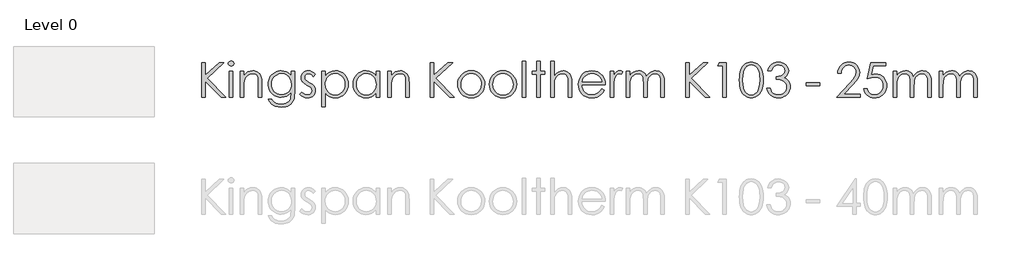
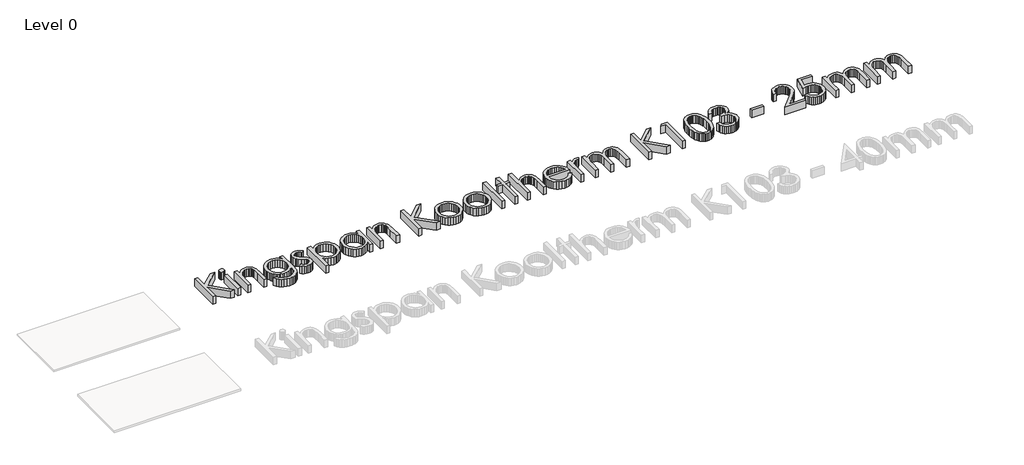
# One storey, part 13 of 13: 1 proxy.
"""IFC4 building model written with IfcOpenShell, lengths in millimetres."""

from ifc_helpers import new_model, si_unit, origin, origin_with_axes, place, context, project, spatial, polyline, outline, extrude, element, save

model = new_model("IFC4")

# Units and contexts
model_context = context("Model", 3, world=origin())
ifc_project = project(units=[si_unit("LENGTHUNIT", "METRE", prefix="MILLI")], contexts=[model_context])

# Site, building, storey
site = spatial("IfcSite", under=ifc_project)
building = spatial("IfcBuilding", under=site)
storey = spatial("IfcBuildingStorey", under=building, Name="Level 0", Elevation=0.0)

# Proxy
placement = place(None, origin())
element("IfcBuildingElementProxy", 1, Name="600mm KI_CenturyGothic", ObjectType="600mm KI_CenturyGothic", at=placement, inside=storey, context=model_context, shape_type="SweptSolid", body=[
    extrude(outline(polyline([(-3852.2663848, 5900.8965983), (-3792.944575, 5900.8965983), (-3792.944575, 5681.683973), (-3555.1938841, 5900.8965983), (-3471.6181051, 5900.8965983), (-3760.9664119, 5633.9484541), (-3441.9572002, 5307.6785001), (-3520.8984627, 5307.6785001), (-3792.944575, 5585.9039675), (-3792.944575, 5307.6785001), (-3852.2663848, 5307.6785001), (-3852.2663848, 5900.8965983)])), origin_with_axes(), (0.0, 0.0, 1.0), 150.0),
    extrude(outline(polyline([(-3348.1854852, 5930.5575033), (-3329.145347, 5927.2747208), (-3313.1176445, 5917.4263735), (-3302.226531, 5902.9821307), (-3298.5961598, 5885.911662), (-3302.226531, 5869.0729191), (-3313.1176445, 5854.7059183), (-3329.145347, 5844.857571), (-3348.1854852, 5841.5747885), (-3366.9938975, 5844.857571), (-3382.9443581, 5854.7059183), (-3393.8354717, 5869.0729191), (-3397.4658428, 5885.911662), (-3393.8354717, 5902.9821307), (-3382.9443581, 5917.4263735), (-3366.9938975, 5927.2747208), (-3348.1854852, 5930.5575033)])), origin_with_axes(), (0.0, 0.0, 1.0), 150.0),
    extrude(outline(polyline([(-3377.6919062, 5752.5920738), (-3318.3700964, 5752.5920738), (-3318.3700964, 5307.6785001), (-3377.6919062, 5307.6785001), (-3377.6919062, 5752.5920738)])), origin_with_axes(), (0.0, 0.0, 1.0), 150.0),
    extrude(outline(polyline([(-3189.8395084, 5752.5920738), (-3130.5176986, 5752.5920738), (-3130.5176986, 5673.4963274), (-3096.9946967, 5713.0055796), (-3060.0730495, 5740.696815), (-3019.7141359, 5757.0334853), (-2975.879335, 5762.4790421), (-2953.4357238, 5760.9004099), (-2932.2955704, 5756.1645135), (-2912.4588747, 5748.2713528), (-2893.9256368, 5737.2209277), (-2877.212412, 5723.4960006), (-2862.835756, 5707.5793333), (-2841.0921499, 5669.1707787), (-2833.6238199, 5644.7912914), (-2828.2892984, 5614.4448643), (-2824.0216812, 5535.8511905), (-2824.0216812, 5307.6785001), (-2883.343491, 5307.6785001), (-2883.343491, 5520.8662542), (-2883.343491, 5623.907002), (-2884.7290183, 5644.7043943), (-2889.8125035, 5662.7596977), (-2898.2849788, 5678.0729123), (-2910.1464442, 5690.644038), (-2924.7403432, 5700.4441091), (-2941.4101193, 5707.4441599), (-2980.977303, 5713.0442006), (-3005.3471351, 5710.8862539), (-3028.4038541, 5704.4124138), (-3050.1474602, 5693.6226803), (-3070.5779533, 5678.5170534), (-3088.6622225, 5660.2348518), (-3103.3671568, 5639.915394), (-3114.6927562, 5617.55868), (-3122.6390208, 5593.1647099), (-3128.5480292, 5546.0857475), (-3130.5176986, 5471.5858965), (-3130.5176986, 5307.6785001), (-3189.8395084, 5307.6785001), (-3189.8395084, 5752.5920738)])), origin_with_axes(), (0.0, 0.0, 1.0), 150.0),
    extrude(outline(polyline([(-2319.7862977, 5752.5920738), (-2260.4644879, 5752.5920738), (-2260.4644879, 5401.604699), (-2264.5196897, 5321.3503235), (-2269.588692, 5290.5500999), (-2276.6852953, 5265.9678526), (-2289.9371156, 5237.3545415), (-2307.2924139, 5212.2267729), (-2328.7511904, 5190.5845469), (-2354.3134448, 5172.4278634), (-2383.3226209, 5158.0656902), (-2415.122162, 5147.8069951), (-2449.7120682, 5141.651778), (-2487.0923395, 5139.6000389), (-2541.0458345, 5143.6166198), (-2589.206184, 5155.6663624), (-2630.260275, 5174.4940853), (-2662.8949946, 5198.8446068), (-2690.2000204, 5232.1938144), (-2715.2650299, 5278.0175952), (-2655.94322, 5278.0175952), (-2642.4355358, 5256.848476), (-2627.0933555, 5238.6048954), (-2609.9166791, 5223.2868532), (-2590.9055067, 5210.8943494), (-2569.7894914, 5201.3308318), (-2546.2982864, 5194.4997477), (-2492.1903075, 5189.0348805), (-2438.5071593, 5194.3645743), (-2415.083541, 5201.0266916), (-2393.93856, 5210.3536559), (-2359.6624492, 5234.3952097), (-2336.8567664, 5263.8823202), (-2329.3884364, 5282.5217658), (-2324.0539149, 5306.2302137), (-2319.7862977, 5368.8541165), (-2319.7862977, 5391.5632468), (-2354.757586, 5355.7809182), (-2396.6420279, 5329.3834852), (-2443.392712, 5313.1047464), (-2492.9627269, 5307.6785001), (-2522.4063889, 5309.5757553), (-2550.9521133, 5315.2675207), (-2578.5999001, 5324.7537964), (-2605.3497494, 5338.0345825), (-2630.1540674, 5354.5257366), (-2651.9652601, 5373.6431168), (-2670.7833277, 5395.3867228), (-2686.6082702, 5419.7565549), (-2699.1456025, 5446.0719183), (-2708.1008399, 5473.6521184), (-2713.4739824, 5502.4971553), (-2715.2650299, 5532.607029), (-2713.3967404, 5562.8955247), (-2707.7918722, 5592.1219437), (-2698.4504251, 5620.286286), (-2685.3723991, 5647.3885517), (-2668.9971079, 5672.5742517), (-2649.7638648, 5694.9888971), (-2627.67267, 5714.632488), (-2602.7235235, 5731.5050242), (-2575.9833294, 5745.056157), (-2548.5189922, 5754.7355376), (-2520.3305117, 5760.543166), (-2491.4178881, 5762.4790421), (-2444.5320306, 5757.5355579), (-2400.8903346, 5742.7051055), (-2359.6045177, 5716.1338782), (-2319.7862977, 5675.9680694), (-2319.7862977, 5752.5920738)]), holes=[polyline([(-2484.1571458, 5713.0442006), (-2529.0154023, 5707.0193293), (-2570.5908765, 5688.9447153), (-2606.2187212, 5660.2300242), (-2633.2340897, 5622.2849212), (-2650.2659375, 5578.0059792), (-2655.94322, 5530.2897708), (-2653.0080263, 5494.3770964), (-2644.2024452, 5461.7182387), (-2629.5264766, 5432.3131977), (-2608.9801206, 5406.1619734), (-2583.7606272, 5384.703197), (-2555.0652466, 5369.3754996), (-2522.8939786, 5360.1788811), (-2487.2468234, 5357.1133416), (-2451.3244937, 5360.154743), (-2419.1001219, 5369.2789472), (-2390.573708, 5384.4859541), (-2365.7452519, 5405.7757637), (-2345.6382095, 5432.0187128), (-2331.2760363, 5462.0851379), (-2322.6587323, 5495.975039), (-2319.7862977, 5533.6884162), (-2325.0773706, 5582.3894593), (-2340.9505892, 5625.6063246), (-2366.4983608, 5661.8327944), (-2400.8130926, 5689.5626508), (-2440.9982119, 5707.1738131), (-2484.1571458, 5713.0442006)])]), origin_with_axes(), (0.0, 0.0, 1.0), 150.0),
    extrude(outline(polyline([(-1904.5336289, 5701.3034257), (-1940.9918246, 5663.609359), (-1962.9575012, 5685.2371022), (-1984.6721416, 5700.6854902), (-2006.1357456, 5709.954523), (-2027.3483133, 5713.0442006), (-2052.181597, 5708.3710632), (-2073.2300256, 5694.3516511), (-2087.5970264, 5674.1142629), (-2092.3860267, 5650.787197), (-2088.4466878, 5629.2366958), (-2076.628671, 5608.7675817), (-2052.0657341, 5586.599145), (-2010.2006027, 5560.877579), (-1958.3326401, 5528.0111336), (-1939.8428507, 5512.1861912), (-1926.315856, 5496.7667689), (-1909.9791857, 5464.0934284), (-1904.5336289, 5427.5579908), (-1906.9474396, 5401.4115941), (-1914.1888714, 5377.3507299), (-1926.2579245, 5355.375398), (-1943.1545989, 5335.4855985), (-1963.6719892, 5318.9944443), (-1986.6031901, 5307.2150485), (-2011.9482016, 5300.147411), (-2039.7070237, 5297.7915318), (-2077.4397114, 5301.6729393), (-2113.3958344, 5313.3171617), (-2145.4512394, 5331.7972958), (-2171.4817731, 5356.1864383), (-2135.7959969, 5396.6612148), (-2114.0041146, 5375.0334717), (-2091.5749863, 5359.5850837), (-2068.5086121, 5350.3160509), (-2044.8049918, 5347.2263733), (-2013.637869, 5352.8650349), (-1987.4914724, 5369.7810198), (-1969.7644472, 5394.3439566), (-1963.8554388, 5422.9234744), (-1967.7561567, 5446.7139919), (-1979.4583106, 5467.7237995), (-2005.0253927, 5489.4287846), (-2050.2119275, 5516.2317378), (-2099.762632, 5546.8967879), (-2117.441381, 5562.0555186), (-2130.3890611, 5577.0983864), (-2146.3781427, 5609.2310334), (-2151.7078365, 5645.689229), (-2149.5305794, 5669.7356104), (-2142.9988078, 5691.6674937), (-2132.1125219, 5711.4848789), (-2116.8717217, 5729.187766), (-2098.309518, 5743.7526993), (-2077.4590218, 5754.1562231), (-2054.3202332, 5760.3983373), (-2028.8931521, 5762.4790421), (-1997.9481, 5758.6555661), (-1966.9064954, 5747.185138), (-1935.7683384, 5728.0677579), (-1904.5336289, 5701.3034257)])), origin_with_axes(), (0.0, 0.0, 1.0), 150.0),
    extrude(outline(polyline([(-1795.7769776, 5752.5920738), (-1736.4551678, 5752.5920738), (-1736.4551678, 5671.4880369), (-1700.9238754, 5711.7310876), (-1660.4490989, 5740.0788795), (-1614.9922173, 5756.8790014), (-1564.5146096, 5762.4790421), (-1520.0618732, 5758.2403906), (-1478.9305402, 5745.5244363), (-1441.1206107, 5724.331179), (-1406.6320845, 5694.6606189), (-1377.9077381, 5659.0231189), (-1357.3903478, 5619.929042), (-1345.0799137, 5577.3783884), (-1340.9764356, 5531.371158), (-1345.0412927, 5484.4708176), (-1357.235864, 5441.2491246), (-1377.5601494, 5401.706079), (-1406.014149, 5365.8416808), (-1440.2130179, 5336.0697406), (-1477.7719111, 5314.8040691), (-1518.6908288, 5302.0446661), (-1562.9697708, 5297.7915318), (-1612.6170277, 5303.256399), (-1658.0545988, 5319.6510008), (-1699.3211052, 5346.8980951), (-1736.4551678, 5384.92044), (-1736.4551678, 5149.4870072), (-1795.7769776, 5149.4870072), (-1795.7769776, 5752.5920738)]), holes=[polyline([(-1568.5311905, 5713.0442006), (-1602.5852307, 5709.7469353), (-1633.8392507, 5699.8551393), (-1662.2932503, 5683.3688128), (-1687.9472295, 5660.2879556), (-1709.1694525, 5632.3022353), (-1724.3281832, 5601.1013192), (-1733.4234216, 5566.6852074), (-1736.4551678, 5529.0538998), (-1731.048232, 5480.1983728), (-1714.8274246, 5436.5180558), (-1688.5265441, 5399.6736505), (-1652.8793888, 5371.3258586), (-1611.4390881, 5353.2512446), (-1567.7587711, 5347.2263733), (-1525.0632888, 5353.2898656), (-1485.0326535, 5371.4803424), (-1450.2544701, 5400.5812433), (-1423.3163435, 5439.3760076), (-1406.05277, 5484.0411593), (-1400.2982454, 5530.7532225), (-1405.9948385, 5577.6970114), (-1423.0846177, 5622.1304373), (-1449.8103289, 5660.4810605), (-1484.414718, 5689.1764411), (-1524.7157001, 5707.0772607), (-1568.5311905, 5713.0442006)])]), origin_with_axes(), (0.0, 0.0, 1.0), 150.0),
    extrude(outline(polyline([(-807.0801472, 5752.5920738), (-807.0801472, 5307.6785001), (-866.401957, 5307.6785001), (-866.401957, 5383.5300851), (-903.4780882, 5345.6815345), (-944.8797679, 5318.9558233), (-990.4525125, 5303.0826047), (-1040.0418379, 5297.7915318), (-1084.3159523, 5302.0446661), (-1125.2203871, 5314.8040691), (-1162.7551422, 5336.0697406), (-1196.9202178, 5365.8416808), (-1225.340424, 5401.706079), (-1245.6405713, 5441.2491246), (-1257.8206597, 5484.4708176), (-1261.8806892, 5531.371158), (-1257.7820388, 5577.3783884), (-1245.4860875, 5619.929042), (-1224.9928353, 5659.0231189), (-1196.3022822, 5694.6606189), (-1161.8475494, 5724.331179), (-1124.061758, 5745.5244363), (-1082.9449079, 5758.2403906), (-1038.4969991, 5762.4790421), (-987.7490446, 5756.8790014), (-942.0990581, 5740.0788795), (-921.2051134, 5727.3918909), (-901.6242816, 5711.7310876), (-866.401957, 5671.4880369), (-866.401957, 5752.5920738), (-807.0801472, 5752.5920738)]), holes=[polyline([(-1034.3259343, 5713.0442006), (-1078.1414247, 5707.0772607), (-1118.4424068, 5689.1764411), (-1153.0467959, 5660.4810605), (-1179.7725071, 5622.1304373), (-1196.8622863, 5577.6970114), (-1202.5588794, 5530.7532225), (-1196.8043548, 5484.0411593), (-1179.5407813, 5439.3760076), (-1152.6026548, 5400.5812433), (-1117.8244713, 5371.4803424), (-1077.6779731, 5353.2898656), (-1034.6349021, 5347.2263733), (-991.0125165, 5353.2512446), (-949.7460102, 5371.3258586), (-914.2726493, 5399.6736505), (-888.0297002, 5436.5180558), (-871.8088928, 5480.1983728), (-866.401957, 5529.0538998), (-869.4337032, 5566.6852074), (-878.5289416, 5601.1013192), (-893.6876723, 5632.3022353), (-914.9098953, 5660.2879556), (-940.5638746, 5683.3688128), (-969.0178742, 5699.8551393), (-1000.2718941, 5709.7469353), (-1034.3259343, 5713.0442006)])]), origin_with_axes(), (0.0, 0.0, 1.0), 150.0),
    extrude(outline(polyline([(-668.662591, 5752.5920738), (-609.3407811, 5752.5920738), (-609.3407811, 5673.4963274), (-575.8177792, 5713.0055796), (-538.896132, 5740.696815), (-498.5372184, 5757.0334853), (-454.7024175, 5762.4790421), (-432.2588064, 5760.9004099), (-411.1186529, 5756.1645135), (-391.2819572, 5748.2713528), (-372.7487193, 5737.2209277), (-356.0354946, 5723.4960006), (-341.6588385, 5707.5793333), (-319.9152324, 5669.1707787), (-312.4469024, 5644.7912914), (-307.1123809, 5614.4448643), (-302.8447637, 5535.8511905), (-302.8447637, 5307.6785001), (-362.1665735, 5307.6785001), (-362.1665735, 5520.8662542), (-362.1665735, 5623.907002), (-363.5521008, 5644.7043943), (-368.635586, 5662.7596977), (-377.1080613, 5678.0729123), (-388.9695267, 5690.644038), (-403.5634257, 5700.4441091), (-420.2332018, 5707.4441599), (-459.8003855, 5713.0442006), (-484.1702176, 5710.8862539), (-507.2269366, 5704.4124138), (-528.9705427, 5693.6226803), (-549.4010358, 5678.5170534), (-567.485305, 5660.2348518), (-582.1902393, 5639.915394), (-593.5158387, 5617.55868), (-601.4621033, 5593.1647099), (-607.3711117, 5546.0857475), (-609.3407811, 5471.5858965), (-609.3407811, 5307.6785001), (-668.662591, 5307.6785001), (-668.662591, 5752.5920738)])), origin_with_axes(), (0.0, 0.0, 1.0), 150.0),
    extrude(outline(polyline([(62.9730635, 5900.8965983), (122.2948734, 5900.8965983), (122.2948734, 5681.683973), (360.0455643, 5900.8965983), (443.6213432, 5900.8965983), (154.2730365, 5633.9484541), (473.2822481, 5307.6785001), (394.3409856, 5307.6785001), (122.2948734, 5585.9039675), (122.2948734, 5307.6785001), (62.9730635, 5307.6785001), (62.9730635, 5900.8965983)])), origin_with_axes(), (0.0, 0.0, 1.0), 150.0),
    extrude(outline(polyline([(760.1588128, 5762.4790421), (809.4681362, 5757.8541809), (854.3553585, 5743.9795975), (894.8204798, 5720.8552917), (930.8635, 5688.4812637), (957.7630055, 5653.2492839), (976.9769381, 5614.908316), (988.5052976, 5573.45836), (992.3480841, 5528.8994159), (988.283227, 5484.0846079), (976.0886558, 5442.1760279), (955.7643703, 5403.1736759), (927.3103707, 5367.0775519), (892.4742558, 5336.7649181), (853.0036246, 5315.1130368), (808.8984769, 5302.1219081), (760.1588128, 5297.7915318), (711.2839754, 5302.1219081), (667.0822753, 5315.1130368), (627.5537126, 5336.7649181), (592.6982872, 5367.0775519), (564.2442876, 5403.1736759), (543.9200022, 5442.1760279), (531.7254309, 5484.0846079), (527.6605738, 5528.8994159), (531.5033603, 5573.2652551), (543.0317198, 5614.5993482), (562.2456524, 5652.9016951), (589.145158, 5688.1722959), (625.2074886, 5720.6814974), (665.7305413, 5743.9023555), (710.7143161, 5757.8348705), (760.1588128, 5762.4790421)]), holes=[polyline([(760.004329, 5713.0442006), (725.7282181, 5709.6696933), (693.9624704, 5699.5461716), (664.7070856, 5682.6736353), (637.962064, 5659.0520846), (615.6584538, 5630.6415336), (599.7273037, 5599.4019965), (590.1686137, 5565.3334734), (586.9823836, 5528.4359643), (592.7948396, 5480.7004454), (610.2322075, 5436.3635719), (637.5758543, 5398.5729529), (673.1071466, 5370.4761972), (714.6439998, 5353.0388293), (760.004329, 5347.2263733), (805.3646581, 5353.0388293), (846.9015113, 5370.4761972), (882.4328037, 5398.5729529), (909.7764504, 5436.3635719), (927.2138183, 5480.7004454), (933.0262743, 5528.4359643), (929.8255614, 5565.3334734), (920.2234227, 5599.4019965), (904.2198583, 5630.6415336), (881.8148681, 5659.0520846), (854.9974321, 5682.6736353), (825.7565303, 5699.5461716), (794.0921625, 5709.6696933), (760.004329, 5713.0442006)])]), origin_with_axes(), (0.0, 0.0, 1.0), 150.0),
    extrude(outline(polyline([(1303.9420695, 5762.4790421), (1353.2513929, 5757.8541809), (1398.1386152, 5743.9795975), (1438.6037365, 5720.8552917), (1474.6467567, 5688.4812637), (1501.5462622, 5653.2492839), (1520.7601948, 5614.908316), (1532.2885543, 5573.45836), (1536.1313408, 5528.8994159), (1532.0664837, 5484.0846079), (1519.8719125, 5442.1760279), (1499.547627, 5403.1736759), (1471.0936274, 5367.0775519), (1436.2575126, 5336.7649181), (1396.7868813, 5315.1130368), (1352.6817336, 5302.1219081), (1303.9420695, 5297.7915318), (1255.0672321, 5302.1219081), (1210.865532, 5315.1130368), (1171.3369693, 5336.7649181), (1136.4815439, 5367.0775519), (1108.0275443, 5403.1736759), (1087.7032589, 5442.1760279), (1075.5086876, 5484.0846079), (1071.4438305, 5528.8994159), (1075.286617, 5573.2652551), (1086.8149766, 5614.5993482), (1106.0289091, 5652.9016951), (1132.9284147, 5688.1722959), (1168.9907453, 5720.6814974), (1209.5137981, 5743.9023555), (1254.4975728, 5757.8348705), (1303.9420695, 5762.4790421)]), holes=[polyline([(1303.7875857, 5713.0442006), (1269.5114748, 5709.6696933), (1237.7457271, 5699.5461716), (1208.4903423, 5682.6736353), (1181.7453207, 5659.0520846), (1159.4417105, 5630.6415336), (1143.5105604, 5599.4019965), (1133.9518704, 5565.3334734), (1130.7656404, 5528.4359643), (1136.5780963, 5480.7004454), (1154.0154643, 5436.3635719), (1181.359111, 5398.5729529), (1216.8904033, 5370.4761972), (1258.4272565, 5353.0388293), (1303.7875857, 5347.2263733), (1349.1479149, 5353.0388293), (1390.684768, 5370.4761972), (1426.2160604, 5398.5729529), (1453.5597071, 5436.3635719), (1470.997075, 5480.7004454), (1476.809531, 5528.4359643), (1473.6088181, 5565.3334734), (1464.0066795, 5599.4019965), (1448.003115, 5630.6415336), (1425.5981249, 5659.0520846), (1398.7806889, 5682.6736353), (1369.539787, 5699.5461716), (1337.8754193, 5709.6696933), (1303.7875857, 5713.0442006)])]), origin_with_axes(), (0.0, 0.0, 1.0), 150.0),
    extrude(outline(polyline([(1635.0010238, 5920.6705349), (1694.3228337, 5920.6705349), (1694.3228337, 5307.6785001), (1635.0010238, 5307.6785001), (1635.0010238, 5920.6705349)])), origin_with_axes(), (0.0, 0.0, 1.0), 150.0),
    extrude(outline(polyline([(1882.1752314, 5920.6705349), (1941.4970413, 5920.6705349), (1941.4970413, 5752.5920738), (2020.5927877, 5752.5920738), (2020.5927877, 5703.1572323), (1941.4970413, 5703.1572323), (1941.4970413, 5307.6785001), (1882.1752314, 5307.6785001), (1882.1752314, 5703.1572323), (1803.079485, 5703.1572323), (1803.079485, 5752.5920738), (1882.1752314, 5752.5920738), (1882.1752314, 5920.6705349)])), origin_with_axes(), (0.0, 0.0, 1.0), 150.0),
    extrude(outline(polyline([(2119.4624707, 5920.6705349), (2178.7842806, 5920.6705349), (2178.7842806, 5671.9514886), (2212.5583188, 5711.6538456), (2249.6151394, 5739.9243956), (2289.9161216, 5756.8403805), (2333.4226442, 5762.4790421), (2355.8662553, 5760.9004099), (2377.0064088, 5756.1645135), (2396.8431044, 5748.2713528), (2415.3763424, 5737.2209277), (2432.0895671, 5723.5104834), (2446.4662232, 5707.6372648), (2468.2098293, 5669.4025045), (2475.6781593, 5645.0954316), (2481.0126808, 5614.7345216), (2485.280298, 5535.8511905), (2485.280298, 5307.6785001), (2425.9584882, 5307.6785001), (2425.9584882, 5520.8662542), (2424.5681332, 5585.247411), (2420.3970685, 5623.907002), (2406.879729, 5662.7596977), (2397.1665551, 5678.0729123), (2385.4837117, 5690.644038), (2371.840854, 5700.4441091), (2356.2476374, 5707.4441599), (2319.2101273, 5713.0442006), (2296.3416854, 5710.8862539), (2274.6994594, 5704.4124138), (2254.2834492, 5693.6226803), (2235.0936547, 5678.5170534), (2218.1052556, 5660.2348518), (2204.2934312, 5639.915394), (2193.6581816, 5617.55868), (2186.1995068, 5593.1647099), (2180.6380871, 5546.3174733), (2178.7842806, 5471.5858965), (2178.7842806, 5307.6785001), (2119.4624707, 5307.6785001), (2119.4624707, 5920.6705349)])), origin_with_axes(), (0.0, 0.0, 1.0), 150.0),
    extrude(outline(polyline([(2991.0605203, 5455.9830247), (3038.950523, 5430.8021523), (3013.3255094, 5388.9177104), (2984.0315038, 5355.9547125), (2950.952643, 5330.8703926), (2913.9730643, 5312.6219843), (2872.4941426, 5301.4991449), (2825.9172528, 5297.7915318), (2774.4258447, 5302.2232881), (2728.8627554, 5315.518557), (2689.227985, 5337.6773385), (2655.5215335, 5368.6996326), (2628.6220279, 5405.3026569), (2609.4080954, 5444.2036288), (2597.8797358, 5485.4025485), (2594.0369493, 5528.8994159), (2597.3197318, 5569.7797126), (2607.1680791, 5608.381372), (2623.5819913, 5644.7043943), (2646.5614684, 5678.7487793), (2682.7493173, 5715.3807692), (2724.5758277, 5741.5464764), (2772.0409998, 5757.2459007), (2825.1448334, 5762.4790421), (2879.7935059, 5757.1107273), (2928.6490329, 5741.0057828), (2971.7114143, 5714.1642087), (3008.9806503, 5676.5860049), (3030.4539096, 5644.414737), (3045.9022976, 5608.458614), (3055.3258143, 5568.7176359), (3058.7244596, 5525.1918028), (2653.3587591, 5525.1918028), (2657.095338, 5487.9370497), (2666.6057518, 5454.1871496), (2681.8900007, 5423.9421025), (2702.9480845, 5397.2019084), (2728.3124066, 5375.3376118), (2756.5153699, 5359.7202571), (2787.5569744, 5350.3498443), (2821.4372203, 5347.2263733), (2854.9602222, 5350.238809), (2887.5563208, 5359.2761159), (2917.2944677, 5373.3148385), (2942.2436143, 5391.331521), (2965.725164, 5417.4972281), (2991.0605203, 5455.9830247)]), holes=[polyline([(2999.4026498, 5574.6266443), (2984.9777175, 5617.1483322), (2965.1844704, 5650.1692615), (2939.0766947, 5675.6977226), (2905.7081767, 5695.742006), (2867.7630738, 5708.7186519), (2827.9255433, 5713.0442006), (2795.503239, 5710.3310774), (2765.4368139, 5702.191708), (2737.726268, 5688.6260923), (2712.3716012, 5669.6342304), (2695.8321708, 5651.820308), (2681.4362043, 5630.0477362), (2669.1837016, 5604.316515), (2659.0746627, 5574.6266443), (2999.4026498, 5574.6266443)])]), origin_with_axes(), (0.0, 0.0, 1.0), 150.0),
    extrude(outline(polyline([(3137.820206, 5752.5920738), (3197.1420159, 5752.5920738), (3197.1420159, 5688.1722959), (3222.6897875, 5721.2125357), (3249.589293, 5744.3271862), (3277.7632906, 5757.9410781), (3307.1345382, 5762.4790421), (3330.4616041, 5758.694187), (3355.3335087, 5747.3396219), (3325.8270877, 5705.3200066), (3297.2475699, 5713.0442006), (3270.8308265, 5707.0965712), (3245.3409863, 5689.2536831), (3223.2884125, 5658.8976007), (3207.183468, 5615.4103886), (3199.6523789, 5557.2858288), (3197.1420159, 5459.8451217), (3197.1420159, 5307.6785001), (3137.820206, 5307.6785001), (3137.820206, 5752.5920738)])), origin_with_axes(), (0.0, 0.0, 1.0), 150.0),
    extrude(outline(polyline([(3414.6553185, 5752.5920738), (3473.9771284, 5752.5920738), (3473.9771284, 5676.4315211), (3503.5607913, 5712.9283377), (3533.9168737, 5738.0705891), (3577.3268439, 5756.3769288), (3622.8995884, 5762.4790421), (3653.7384329, 5759.331433), (3682.9165757, 5749.8886059), (3708.6767627, 5735.2126373), (3729.2617397, 5716.365604), (3746.0425511, 5690.9336953), (3760.3902414, 5656.5031006), (3775.16759, 5680.9018983), (3791.6925376, 5702.191708), (3809.965084, 5720.3725296), (3829.9852293, 5735.4443631), (3851.2798666, 5747.2720352), (3873.375889, 5755.7203723), (3896.2732965, 5760.7893747), (3919.9720892, 5762.4790421), (3962.3006723, 5756.6665861), (3981.4952943, 5749.4010161), (3999.3768034, 5739.2292182), (4015.4914031, 5726.46016), (4029.385297, 5711.4028093), (4050.5109676, 5674.4232306), (4057.8103309, 5651.0478886), (4063.0241619, 5622.4780261), (4067.1952266, 5549.7547397), (4067.1952266, 5307.6785001), (4007.8734168, 5307.6785001), (4007.8734168, 5553.3078689), (4005.4209852, 5614.4255538), (3998.0636904, 5652.8727294), (3984.7587663, 5677.3391139), (3964.4634466, 5696.5144254), (3938.3942919, 5708.9117568), (3907.7678627, 5713.0442006), (3888.1194443, 5711.4945341), (3869.3399976, 5706.8455349), (3834.3880198, 5688.2495379), (3805.6540182, 5659.3031209), (3785.8800816, 5622.0531954), (3779.1889985, 5597.8957787), (3774.4096535, 5566.8252084), (3770.5861775, 5483.9446069), (3770.5861775, 5307.6785001), (3711.2643677, 5307.6785001), (3711.2643677, 5538.0139648), (3708.850557, 5606.469634), (3701.6091252, 5648.7016647), (3688.3621325, 5674.9446137), (3667.9316394, 5695.4330383), (3641.6114484, 5708.64141), (3610.6953619, 5713.0442006), (3573.7544042, 5707.0000188), (3539.2465676, 5688.8674734), (3510.2808401, 5660.500371), (3489.9662099, 5623.7525181), (3477.9743988, 5571.9231764), (3473.9771284, 5498.3116077), (3473.9771284, 5307.6785001), (3414.6553185, 5307.6785001), (3414.6553185, 5752.5920738)])), origin_with_axes(), (0.0, 0.0, 1.0), 150.0),
    extrude(outline(polyline([(4433.0130538, 5900.8965983), (4492.3348637, 5900.8965983), (4492.3348637, 5681.683973), (4730.0855546, 5900.8965983), (4813.6613335, 5900.8965983), (4524.3130268, 5633.9484541), (4843.3222385, 5307.6785001), (4764.3809759, 5307.6785001), (4492.3348637, 5585.9039675), (4492.3348637, 5307.6785001), (4433.0130538, 5307.6785001), (4433.0130538, 5900.8965983)])), origin_with_axes(), (0.0, 0.0, 1.0), 150.0),
    extrude(outline(polyline([(5010.6282802, 5900.8965983), (5125.1008351, 5900.8965983), (5125.1008351, 5307.6785001), (5065.7790253, 5307.6785001), (5065.7790253, 5851.4617568), (4976.7963106, 5851.4617568), (5010.6282802, 5900.8965983)])), origin_with_axes(), (0.0, 0.0, 1.0), 150.0),
    extrude(outline(polyline([(5352.5011061, 5604.1330653), (5354.0797383, 5658.5644948), (5358.8156347, 5706.4593252), (5366.7087954, 5747.8175564), (5377.7592204, 5782.6391884), (5391.6869077, 5812.2807828), (5408.2118552, 5838.0989012), (5427.334063, 5860.0935436), (5449.053531, 5878.26471), (5472.747496, 5892.4917098), (5497.793195, 5902.6538525), (5524.190628, 5908.7511381), (5551.9397949, 5910.7835666), (5580.1427582, 5908.7366552), (5606.974677, 5902.595921), (5632.4355515, 5892.361364), (5656.5253815, 5878.0329841), (5678.7083011, 5859.6156091), (5698.4484443, 5837.1140665), (5715.7458112, 5810.5283563), (5730.6004018, 5779.8584786), (5742.5294539, 5744.3416691), (5751.0502054, 5703.2151637), (5756.1626563, 5656.4789625), (5757.8668066, 5604.1330653), (5756.1867944, 5551.9464797), (5751.1467578, 5505.3792452), (5742.7466968, 5464.4313618), (5730.9866115, 5429.1028296), (5716.2768496, 5398.5777805), (5699.0277589, 5372.0403465), (5679.2393394, 5349.4905277), (5656.9115912, 5330.928324), (5632.6527944, 5316.4309774), (5607.0712295, 5306.0757299), (5580.1668963, 5299.8625813), (5551.9397949, 5297.7915318), (5524.2147661, 5299.7998222), (5497.8897474, 5305.8246936), (5472.964739, 5315.8661457), (5449.4397407, 5329.9241788), (5427.8651013, 5347.9601718), (5408.7911698, 5369.9355036), (5392.2179461, 5395.8501745), (5378.1454301, 5425.7041842), (5366.9260384, 5460.7237487), (5358.9121871, 5502.1350837), (5354.1038764, 5549.9381893), (5352.5011061, 5604.1330653)]), holes=[polyline([(5411.8229159, 5604.2875492), (5416.206396, 5515.961391), (5421.6857461, 5480.9804475), (5429.3568363, 5452.1209277), (5439.1713903, 5427.8814414), (5451.0811319, 5406.7605985), (5465.0860611, 5388.7583989), (5481.1861779, 5373.8748426), (5516.4857445, 5353.8884906), (5534.8886366, 5348.8919027), (5553.7936014, 5347.2263733), (5572.7854634, 5348.8581093), (5591.1400794, 5353.7533172), (5625.9375733, 5373.334149), (5641.694929, 5388.0101176), (5655.4439943, 5405.9302476), (5667.1847692, 5427.0945392), (5676.9172536, 5451.5029922), (5686.3793912, 5484.8618549), (5693.138061, 5521.4455687), (5698.5449967, 5604.2875492), (5693.7173755, 5685.8936587), (5687.682849, 5720.5849449), (5679.2345118, 5751.2017189), (5668.652366, 5777.864671), (5656.2164137, 5800.6944918), (5641.9266548, 5819.6911814), (5625.7830894, 5834.8547397), (5590.7152487, 5854.7252288), (5572.4861509, 5859.692851), (5553.7936014, 5861.3487251), (5534.7776014, 5859.692851), (5516.3505711, 5854.7252288), (5481.2634199, 5834.8547397), (5465.3177869, 5820.0435978), (5451.3900996, 5802.1041572), (5439.480358, 5781.0364181), (5429.5885621, 5756.8403805), (5421.8160919, 5727.9856883), (5416.2643275, 5692.9419857), (5411.8229159, 5604.2875492)])]), origin_with_axes(), (0.0, 0.0, 1.0), 150.0),
    extrude(outline(polyline([(5896.2843628, 5762.4790421), (5836.962553, 5762.4790421), (5847.4867673, 5796.1082517), (5861.9116996, 5825.6243279), (5880.2373498, 5851.0272709), (5902.463718, 5872.3170806), (5927.7314876, 5889.1461682), (5955.181342, 5901.1669451), (5984.8132812, 5908.3794113), (6016.6273051, 5910.7835666), (6062.9145376, 5905.6276672), (6105.9962296, 5890.1599687), (6142.7827034, 5865.9446205), (6170.1842816, 5834.545772), (6187.2161294, 5798.7634433), (6192.8934119, 5761.3976549), (6188.2106193, 5725.962915), (6174.1622415, 5694.4288931), (6150.7482785, 5666.7955891), (6117.9687303, 5643.063003), (6155.3538292, 5621.8987115), (6185.3237018, 5592.7012582), (6201.6120959, 5568.601773), (6213.2466631, 5543.1119328), (6220.2274034, 5516.2317378), (6222.5543169, 5487.9611878), (6220.8549942, 5463.2968708), (6215.7570261, 5439.2022132), (6207.2604128, 5415.6772149), (6195.365154, 5392.7218759), (6180.5347016, 5371.3355138), (6163.232507, 5352.5174462), (6143.4585704, 5336.2676731), (6121.2128917, 5322.5861945), (6097.0361646, 5311.7385296), (6071.4690825, 5303.9901975), (6044.5116454, 5299.3411982), (6016.1638535, 5297.7915318), (5978.6290984, 5300.4612064), (5944.3481599, 5308.47023), (5913.3210382, 5321.8186027), (5885.5477332, 5340.5063246), (5861.6654909, 5364.3596011), (5842.3115573, 5393.204638), (5827.4859325, 5427.0414353), (5817.1886164, 5465.869993), (5876.5104262, 5465.869993), (5895.5505644, 5415.1220385), (5907.6485832, 5395.830864), (5921.4652352, 5380.5948913), (5941.5288291, 5365.9961647), (5964.180028, 5355.5685028), (5989.4188318, 5349.3119057), (6017.2452407, 5347.2263733), (6048.6054683, 5349.7222535), (6076.7215344, 5357.2098941), (6101.593439, 5369.689295), (6123.2211822, 5387.1604562), (6140.7261368, 5407.9819867), (6153.2296758, 5430.512495), (6160.7317992, 5454.7519812), (6163.232507, 5480.7004454), (6158.2310914, 5515.2662135), (6143.2268446, 5547.5919654), (6119.8032263, 5574.9549226), (6089.5436964, 5594.6323067), (6046.6357988, 5607.4351583), (5985.2670776, 5614.1745175), (5985.2670776, 5663.609359), (6027.1515195, 5667.2590407), (6065.0580014, 5678.2080857), (6096.0706403, 5694.7957923), (6117.2735528, 5715.3614588), (6129.4970898, 5738.9202504), (6133.5716021, 5764.4873325), (6131.5102078, 5783.5178155), (6125.326025, 5801.2158749), (6115.0190537, 5817.5815109), (6100.5892938, 5832.6147235), (6083.0119248, 5845.1858492), (6063.2621263, 5854.1652247), (6041.3398983, 5859.55285), (6017.2452407, 5861.3487251), (5979.2228958, 5855.729374), (5946.7233496, 5838.8713206), (5932.4191078, 5825.6677765), (5919.2445295, 5808.5345487), (5896.2843628, 5762.4790421)])), origin_with_axes(), (0.0, 0.0, 1.0), 150.0),
    extrude(outline(polyline([(6499.3894294, 5554.8527077), (6726.7897004, 5554.8527077), (6726.7897004, 5505.4178662), (6499.3894294, 5505.4178662), (6499.3894294, 5554.8527077)])), origin_with_axes(), (0.0, 0.0, 1.0), 150.0),
    extrude(outline(polyline([(7092.6075276, 5722.9311689), (7033.2857178, 5722.9311689), (7037.7705779, 5762.1893848), (7048.9079001, 5797.7786086), (7066.6976844, 5829.6988403), (7091.1399307, 5857.9500798), (7120.5353165, 5881.0647303), (7153.1845189, 5897.5751949), (7189.0875381, 5907.4814737), (7228.244374, 5910.7835666), (7266.7156877, 5907.4863013), (7301.3345596, 5897.5945054), (7332.1009898, 5881.1081789), (7359.0149782, 5858.0273217), (7380.8792748, 5830.466432), (7396.4966295, 5800.540008), (7405.8670424, 5768.2480495), (7408.9905133, 5733.5905566), (7402.9077106, 5684.7929611), (7384.6593023, 5639.1236641), (7348.8769736, 5587.236391), (7290.1924098, 5519.784867), (7137.4078527, 5357.1133416), (7418.8774816, 5357.1133416), (7418.8774816, 5307.6785001), (7013.5117812, 5307.6785001), (7239.5216972, 5548.3643848), (7296.2559021, 5613.8848603), (7328.9678636, 5659.9789879), (7344.4934935, 5697.3447763), (7349.6687035, 5736.6802342), (7347.419032, 5761.2866196), (7340.6700175, 5784.1260957), (7329.42166, 5805.1986625), (7313.6739595, 5824.5043198), (7294.6627871, 5840.6237471), (7273.6240137, 5852.1376238), (7250.5576394, 5859.0459498), (7225.4636642, 5861.3487251), (7199.1289903, 5859.0749155), (7175.1212299, 5852.2534867), (7153.4403829, 5840.8844387), (7134.0864493, 5824.9677714), (7117.8511591, 5804.9476262), (7105.526242, 5781.268144), (7097.1116982, 5753.9293249), (7092.6075276, 5722.9311689)])), origin_with_axes(), (0.0, 0.0, 1.0), 150.0),
    extrude(outline(polyline([(7853.904087, 5900.8965983), (7853.904087, 5851.4617568), (7646.5867204, 5851.4617568), (7612.1368152, 5690.4895541), (7649.7150189, 5699.9903127), (7683.3538838, 5703.1572323), (7722.9403779, 5699.7344488), (7758.8965009, 5689.4660984), (7791.2222528, 5672.3521811), (7819.9176335, 5648.3926969), (7843.4378041, 5619.0842083), (7860.2379261, 5585.923278), (7870.3179992, 5548.909906), (7873.6780236, 5508.0440921), (7871.9545628, 5479.0783647), (7866.7841805, 5451.3485083), (7858.1668766, 5424.8545229), (7846.1026511, 5399.5964086), (7831.0984042, 5376.3948609), (7813.6610363, 5356.0705754), (7793.7905473, 5338.6235523), (7771.4869371, 5324.0537914), (7747.054346, 5312.5640528), (7720.7969141, 5304.3570967), (7692.7146413, 5299.432923), (7662.8075277, 5297.7915318), (7627.4741679, 5300.5481035), (7595.008415, 5308.8178187), (7565.4102692, 5322.6006774), (7538.6797304, 5341.8966795), (7515.9271515, 5365.5665064), (7498.2628853, 5392.4708396), (7485.686932, 5422.609679), (7478.1992914, 5455.9830247), (7537.5211013, 5455.9830247), (7547.0991018, 5423.2517526), (7561.6205865, 5397.3563923), (7581.4524546, 5377.0417621), (7606.9616052, 5361.0526806), (7635.9852641, 5350.6829501), (7666.360657, 5347.2263733), (7695.6498351, 5350.1519118), (7722.8052045, 5358.9285272), (7747.8267654, 5373.5562196), (7770.7145178, 5394.0349889), (7789.8077598, 5418.9068935), (7803.4457898, 5446.7139919), (7811.6286078, 5477.456284), (7814.3562138, 5511.1337697), (7811.8941269, 5541.3208854), (7804.5078664, 5568.5438415), (7792.1974323, 5592.8026383), (7774.9628244, 5614.0972756), (7753.6054281, 5631.4332635), (7728.9266283, 5643.816112), (7700.9264251, 5651.245821), (7669.6048185, 5653.7223907), (7640.8997825, 5651.8685842), (7609.3174844, 5646.3071645), (7537.5211013, 5624.0614858), (7596.8429111, 5900.8965983), (7853.904087, 5900.8965983)])), origin_with_axes(), (0.0, 0.0, 1.0), 150.0),
    extrude(outline(polyline([(7982.4346749, 5752.5920738), (8041.7564848, 5752.5920738), (8041.7564848, 5676.4315211), (8071.3401477, 5712.9283377), (8101.6962301, 5738.0705891), (8145.1062003, 5756.3769288), (8190.6789448, 5762.4790421), (8221.5177893, 5759.331433), (8250.6959321, 5749.8886059), (8276.4561191, 5735.2126373), (8297.0410961, 5716.365604), (8313.8219075, 5690.9336953), (8328.1695978, 5656.5031006), (8342.9469464, 5680.9018983), (8359.471894, 5702.191708), (8377.7444404, 5720.3725296), (8397.7645856, 5735.4443631), (8419.0592229, 5747.2720352), (8441.1552454, 5755.7203723), (8464.0526529, 5760.7893747), (8487.7514456, 5762.4790421), (8530.0800287, 5756.6665861), (8549.2746507, 5749.4010161), (8567.1561598, 5739.2292182), (8583.2707595, 5726.46016), (8597.1646534, 5711.4028093), (8618.290324, 5674.4232306), (8625.5896873, 5651.0478886), (8630.8035182, 5622.4780261), (8634.974583, 5549.7547397), (8634.974583, 5307.6785001), (8575.6527732, 5307.6785001), (8575.6527732, 5553.3078689), (8573.2003416, 5614.4255538), (8565.8430468, 5652.8727294), (8552.5381227, 5677.3391139), (8532.242803, 5696.5144254), (8506.1736483, 5708.9117568), (8475.5472191, 5713.0442006), (8455.8988006, 5711.4945341), (8437.119354, 5706.8455349), (8402.1673762, 5688.2495379), (8373.4333746, 5659.3031209), (8353.659438, 5622.0531954), (8346.9683549, 5597.8957787), (8342.1890099, 5566.8252084), (8338.3655339, 5483.9446069), (8338.3655339, 5307.6785001), (8279.0437241, 5307.6785001), (8279.0437241, 5538.0139648), (8276.6299134, 5606.469634), (8269.3884816, 5648.7016647), (8256.1414889, 5674.9446137), (8235.7109958, 5695.4330383), (8209.3908048, 5708.64141), (8178.4747183, 5713.0442006), (8141.5337606, 5707.0000188), (8107.025924, 5688.8674734), (8078.0601965, 5660.500371), (8057.7455663, 5623.7525181), (8045.7537552, 5571.9231764), (8041.7564848, 5498.3116077), (8041.7564848, 5307.6785001), (7982.4346749, 5307.6785001), (7982.4346749, 5752.5920738)])), origin_with_axes(), (0.0, 0.0, 1.0), 150.0),
    extrude(outline(polyline([(8773.3921393, 5752.5920738), (8832.7139491, 5752.5920738), (8832.7139491, 5676.4315211), (8862.2976121, 5712.9283377), (8892.6536944, 5738.0705891), (8936.0636646, 5756.3769288), (8981.6364092, 5762.4790421), (9012.4752537, 5759.331433), (9041.6533964, 5749.8886059), (9067.4135834, 5735.2126373), (9087.9985604, 5716.365604), (9104.7793718, 5690.9336953), (9119.1270621, 5656.5031006), (9133.9044108, 5680.9018983), (9150.4293583, 5702.191708), (9168.7019047, 5720.3725296), (9188.72205, 5735.4443631), (9210.0166873, 5747.2720352), (9232.1127097, 5755.7203723), (9255.0101172, 5760.7893747), (9278.7089099, 5762.4790421), (9321.037493, 5756.6665861), (9340.232115, 5749.4010161), (9358.1136241, 5739.2292182), (9374.2282238, 5726.46016), (9388.1221177, 5711.4028093), (9409.2477883, 5674.4232306), (9416.5471516, 5651.0478886), (9421.7609826, 5622.4780261), (9425.9320473, 5549.7547397), (9425.9320473, 5307.6785001), (9366.6102375, 5307.6785001), (9366.6102375, 5553.3078689), (9364.1578059, 5614.4255538), (9356.8005111, 5652.8727294), (9343.495587, 5677.3391139), (9323.2002673, 5696.5144254), (9297.1311126, 5708.9117568), (9266.5046834, 5713.0442006), (9246.856265, 5711.4945341), (9228.0768183, 5706.8455349), (9193.1248405, 5688.2495379), (9164.3908389, 5659.3031209), (9144.6169023, 5622.0531954), (9137.9258192, 5597.8957787), (9133.1464742, 5566.8252084), (9129.3229982, 5483.9446069), (9129.3229982, 5307.6785001), (9070.0011884, 5307.6785001), (9070.0011884, 5538.0139648), (9067.5873778, 5606.469634), (9060.3459459, 5648.7016647), (9047.0989532, 5674.9446137), (9026.6684601, 5695.4330383), (9000.3482691, 5708.64141), (8969.4321827, 5713.0442006), (8932.4912249, 5707.0000188), (8897.9833883, 5688.8674734), (8869.0176608, 5660.500371), (8848.7030306, 5623.7525181), (8836.7112195, 5571.9231764), (8832.7139491, 5498.3116077), (8832.7139491, 5307.6785001), (8773.3921393, 5307.6785001), (8773.3921393, 5752.5920738)])), origin_with_axes(), (0.0, 0.0, 1.0), 150.0),
])

save(model, "model.ifc")
